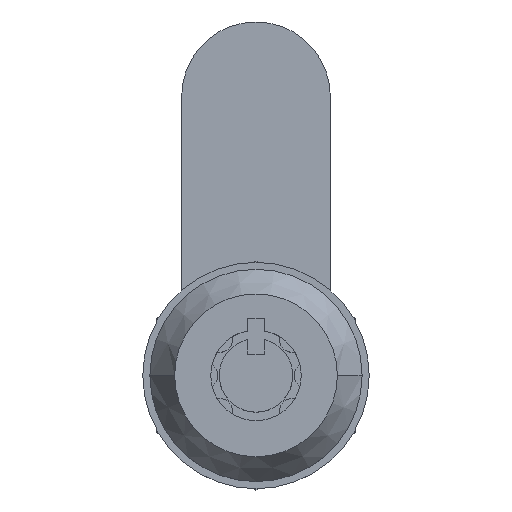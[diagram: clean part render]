
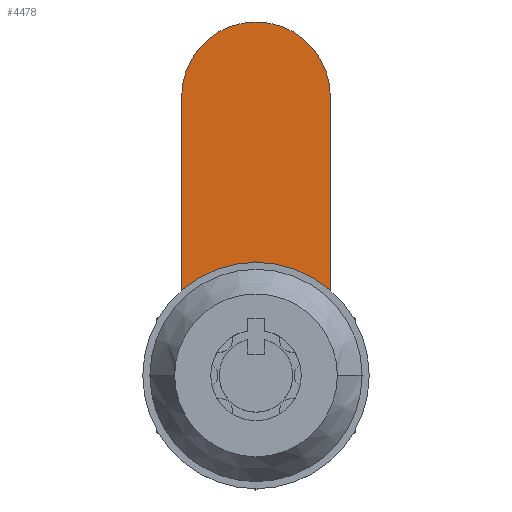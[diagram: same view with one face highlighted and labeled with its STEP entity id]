
A CAD part, top view. The second image highlights one B-rep face of the part: STEP entity #4478.
In plain terms, the highlighted planar face has unit normal (0, 0, 1) as drawn and (0, 0, -1) by its records, which use the part's own axes.
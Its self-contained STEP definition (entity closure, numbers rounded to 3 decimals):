
#159 = VERTEX_POINT ( 'NONE', #2875 ) ;
#161 = VERTEX_POINT ( 'NONE', #2897 ) ;
#240 = ORIENTED_EDGE ( 'NONE', *, *, #513, .T. ) ;
#257 = ORIENTED_EDGE ( 'NONE', *, *, #533, .F. ) ;
#274 = ORIENTED_EDGE ( 'NONE', *, *, #517, .F. ) ;
#276 = ORIENTED_EDGE ( 'NONE', *, *, #530, .F. ) ;
#295 = ORIENTED_EDGE ( 'NONE', *, *, #532, .F. ) ;
#298 = ORIENTED_EDGE ( 'NONE', *, *, #534, .T. ) ;
#301 = ORIENTED_EDGE ( 'NONE', *, *, #531, .F. ) ;
#381 = VERTEX_POINT ( 'NONE', #4097 ) ;
#395 = VERTEX_POINT ( 'NONE', #4275 ) ;
#397 = VERTEX_POINT ( 'NONE', #4273 ) ;
#401 = VERTEX_POINT ( 'NONE', #4269 ) ;
#402 = VERTEX_POINT ( 'NONE', #4259 ) ;
#403 = VERTEX_POINT ( 'NONE', #4267 ) ;
#404 = VERTEX_POINT ( 'NONE', #4266 ) ;
#405 = VERTEX_POINT ( 'NONE', #4265 ) ;
#513 = EDGE_CURVE ( 'NONE', #161, #381, #665, .T. ) ;
#517 = EDGE_CURVE ( 'NONE', #401, #405, #669, .T. ) ;
#527 = EDGE_CURVE ( 'NONE', #159, #402, #686, .T. ) ;
#528 = EDGE_CURVE ( 'NONE', #404, #159, #673, .T. ) ;
#529 = EDGE_CURVE ( 'NONE', #395, #404, #687, .T. ) ;
#530 = EDGE_CURVE ( 'NONE', #403, #395, #689, .T. ) ;
#531 = EDGE_CURVE ( 'NONE', #397, #403, #691, .T. ) ;
#532 = EDGE_CURVE ( 'NONE', #405, #397, #692, .T. ) ;
#533 = EDGE_CURVE ( 'NONE', #402, #401, #695, .T. ) ;
#534 = EDGE_CURVE ( 'NONE', #381, #161, #694, .T. ) ;
#665 = CIRCLE ( 'NONE', #4442, 2. ) ;
#669 = CIRCLE ( 'NONE', #1192, 3.6 ) ;
#673 = LINE ( 'NONE', #3470, #690 ) ;
#686 = LINE ( 'NONE', #3546, #688 ) ;
#687 = CIRCLE ( 'NONE', #1197, 5.25 ) ;
#688 = VECTOR ( 'NONE', #3562, 1000. ) ;
#689 = LINE ( 'NONE', #3557, #693 ) ;
#690 = VECTOR ( 'NONE', #3565, 1000. ) ;
#691 = CIRCLE ( 'NONE', #1198, 5.25 ) ;
#692 = LINE ( 'NONE', #3516, #696 ) ;
#693 = VECTOR ( 'NONE', #3520, 1000. ) ;
#694 = CIRCLE ( 'NONE', #1200, 2. ) ;
#695 = CIRCLE ( 'NONE', #1199, 3.6 ) ;
#696 = VECTOR ( 'NONE', #3551, 1000. ) ;
#1192 = AXIS2_PLACEMENT_3D ( 'NONE', #3490, #3485, #3484 ) ;
#1197 = AXIS2_PLACEMENT_3D ( 'NONE', #3563, #3495, #3478 ) ;
#1198 = AXIS2_PLACEMENT_3D ( 'NONE', #3505, #3552, #3560 ) ;
#1199 = AXIS2_PLACEMENT_3D ( 'NONE', #3477, #3459, #3513 ) ;
#1200 = AXIS2_PLACEMENT_3D ( 'NONE', #3497, #3529, #3531 ) ;
#2351 = DIRECTION ( 'NONE',  ( 0., 0., 1. ) ) ;
#2354 = CARTESIAN_POINT ( 'NONE',  ( 0., 19.75, 0. ) ) ;
#2355 = PLANE ( 'NONE',  #2406 ) ;
#2357 = DIRECTION ( 'NONE',  ( 1., 0., 0. ) ) ;
#2406 = AXIS2_PLACEMENT_3D ( 'NONE', #2354, #2351, #2357 ) ;
#2557 = FACE_OUTER_BOUND ( 'NONE', #3164, .T. ) ;
#2561 = FACE_BOUND ( 'NONE', #3246, .T. ) ;
#2875 = CARTESIAN_POINT ( 'NONE',  ( -5.25, 1.911, 0. ) ) ;
#2897 = CARTESIAN_POINT ( 'NONE',  ( -2., 0., 0. ) ) ;
#3141 = ORIENTED_EDGE ( 'NONE', *, *, #527, .F. ) ;
#3164 = EDGE_LOOP ( 'NONE', ( #3141, #3254, #3249, #276, #301, #295, #274, #257 ) ) ;
#3246 = EDGE_LOOP ( 'NONE', ( #240, #298 ) ) ;
#3249 = ORIENTED_EDGE ( 'NONE', *, *, #529, .F. ) ;
#3254 = ORIENTED_EDGE ( 'NONE', *, *, #528, .F. ) ;
#3459 = DIRECTION ( 'NONE',  ( 0., 0., 1. ) ) ;
#3467 = DIRECTION ( 'NONE',  ( 1., 0., 0. ) ) ;
#3469 = DIRECTION ( 'NONE',  ( 0., 0., 1. ) ) ;
#3470 = CARTESIAN_POINT ( 'NONE',  ( -5.25, 19.75, 0. ) ) ;
#3477 = CARTESIAN_POINT ( 'NONE',  ( 0., 0., 0. ) ) ;
#3478 = DIRECTION ( 'NONE',  ( 1., 0., 0. ) ) ;
#3484 = DIRECTION ( 'NONE',  ( 1., 0., 0. ) ) ;
#3485 = DIRECTION ( 'NONE',  ( 0., 0., 1. ) ) ;
#3490 = CARTESIAN_POINT ( 'NONE',  ( 0., 0., 0. ) ) ;
#3491 = CARTESIAN_POINT ( 'NONE',  ( 0., 0., 0. ) ) ;
#3495 = DIRECTION ( 'NONE',  ( 0., 0., 1. ) ) ;
#3497 = CARTESIAN_POINT ( 'NONE',  ( 0., 0., 0. ) ) ;
#3505 = CARTESIAN_POINT ( 'NONE',  ( 0., 0., 0. ) ) ;
#3513 = DIRECTION ( 'NONE',  ( 1., 0., 0. ) ) ;
#3516 = CARTESIAN_POINT ( 'NONE',  ( 1.231, -3.383, 0. ) ) ;
#3520 = DIRECTION ( 'NONE',  ( 0., 1., 0. ) ) ;
#3529 = DIRECTION ( 'NONE',  ( 0., 0., 1. ) ) ;
#3531 = DIRECTION ( 'NONE',  ( 1., 0., 0. ) ) ;
#3546 = CARTESIAN_POINT ( 'NONE',  ( -3.383, 1.231, 0. ) ) ;
#3551 = DIRECTION ( 'NONE',  ( 0.342, -0.94, 0. ) ) ;
#3552 = DIRECTION ( 'NONE',  ( 0., 0., 1. ) ) ;
#3557 = CARTESIAN_POINT ( 'NONE',  ( 5.25, 19.75, 0. ) ) ;
#3560 = DIRECTION ( 'NONE',  ( 1., 0., 0. ) ) ;
#3562 = DIRECTION ( 'NONE',  ( 0.94, -0.342, 0. ) ) ;
#3563 = CARTESIAN_POINT ( 'NONE',  ( 0., 19.75, 0. ) ) ;
#3565 = DIRECTION ( 'NONE',  ( 0., -1., 0. ) ) ;
#4097 = CARTESIAN_POINT ( 'NONE',  ( 2., 0., 0. ) ) ;
#4259 = CARTESIAN_POINT ( 'NONE',  ( -3.383, 1.231, 0. ) ) ;
#4265 = CARTESIAN_POINT ( 'NONE',  ( 1.231, -3.383, 0. ) ) ;
#4266 = CARTESIAN_POINT ( 'NONE',  ( -5.25, 19.75, 0. ) ) ;
#4267 = CARTESIAN_POINT ( 'NONE',  ( 5.25, 0., 0. ) ) ;
#4269 = CARTESIAN_POINT ( 'NONE',  ( -3.6, 0., 0. ) ) ;
#4273 = CARTESIAN_POINT ( 'NONE',  ( 1.796, -4.933, 0. ) ) ;
#4275 = CARTESIAN_POINT ( 'NONE',  ( 5.25, 19.75, 0. ) ) ;
#4442 = AXIS2_PLACEMENT_3D ( 'NONE', #3491, #3469, #3467 ) ;
#4478 = ADVANCED_FACE ( 'NONE', ( #2557, #2561 ), #2355, .F. ) ;
